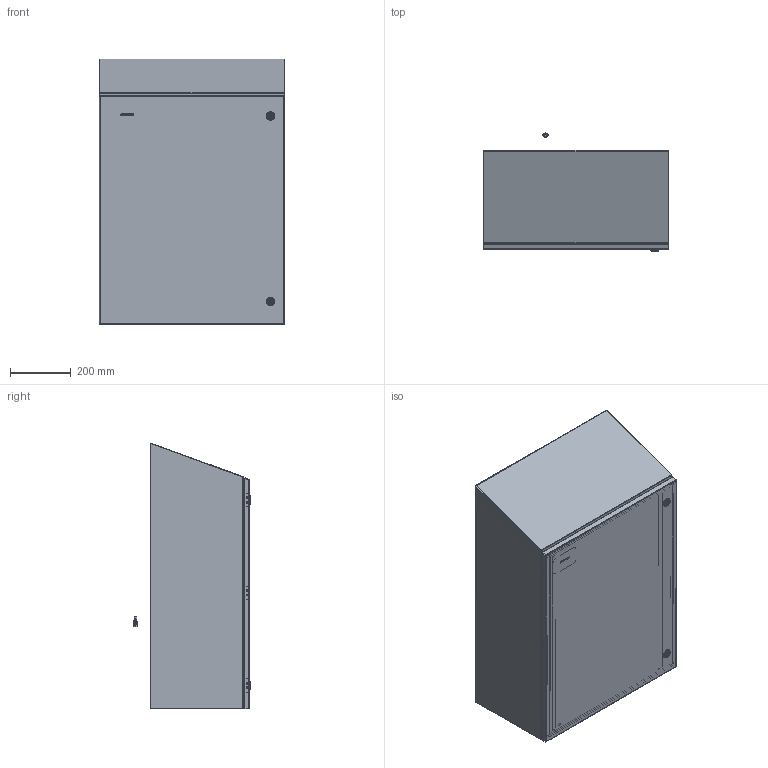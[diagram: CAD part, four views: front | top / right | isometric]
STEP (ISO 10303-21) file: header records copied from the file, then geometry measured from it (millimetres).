
FILE_DESCRIPTION(/* description */ ('Unknown'),/* implementation_level */ '2;1');
FILE_NAME(/* name */ 'ST302412LG',/* time_stamp */ '2018-11-21T14:59:02-05:00',/* author */ ('Unknown'),/* organization */ ('Unknown'),/* preprocessor_version */ 'ST-DEVELOPER v16.7',/* originating_system */ 'DEX',/* authorisation */ $);
FILE_SCHEMA (('AUTOMOTIVE_DESIGN {1 0 10303 214 3 1 1}'));
Length unit declared in the file: millimetre
Products named in the file (30): ST302412LG; KIT90669; NTS18006; BUL10136; WAM30022; SCC181205; NTS166105; NTS165305; NTS16535; BUL10020; QLB20183; PIN17645; HNG14573-1; STD26098; STD21878; COM56133-8; HNG14573-2; PCOM53844; LOK10000; LOK10000CAM; LOK10000SC; LOK10000NUT; CAP02342; COM70447-1; COM70447-2; COM70219_oa_0; COM70447-3; QLB20254
Assembly tree (43 placements, depth 3):
  ST302412LG
    KIT90669
      NTS18006
      BUL10136
      WAM30022
      SCC181205
      NTS166105
      NTS165305
      NTS16535
      BUL10020
    QLB20183
    PIN17645  x3
    HNG14573-1  x3
    STD26098  x4
    STD21878
    COM56133-8
      HNG14573-2  x3
      STD21878
      COM56133-8
      PCOM53844  x2
    LOK10000  x2
      LOK10000
      LOK10000CAM
      LOK10000SC
      LOK10000NUT
    CAP02342  x3
    COM70447-1
    COM70447-2
    COM70219_oa_0
    COM70447-3
    QLB20254
Bounding box: 609.6 x 387.54 x 872.28 mm (x, y, z)
Volume: 3353572 mm3; surface area: 4340071.9 mm2
Topology: 41 solids, 42 shells, 1090 faces, 2615 edges, 1673 vertices
Faces by surface type: plane 602, cylinder 231, bspline 168, torus 55, cone 34
Full cylindrical faces by diameter (mm): 4.369 x3, 4.976 x1, 5.74 x3, 5.893 x4, 6.096 x3, 6.35 x3, 6.411 x1, 6.858 x4, 7.137 x2, 7.417 x3, 7.805 x1, 7.938 x4, 9.144 x2, 10.109 x9, 11.557 x6, 12.7 x4, 13.335 x2, 14.732 x1, 15.875 x6, 19.939 x4, 22.225 x1, 27.94 x2
Entity records: 26297 total; most frequent: CARTESIAN_POINT 8159, ORIENTED_EDGE 3772, DIRECTION 3076, EDGE_CURVE 1886, VERTEX_POINT 1236, LINE 1126, VECTOR 1126, AXIS2_PLACEMENT_3D 975
